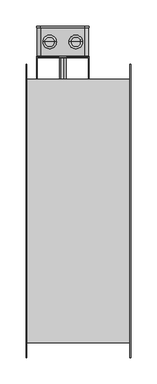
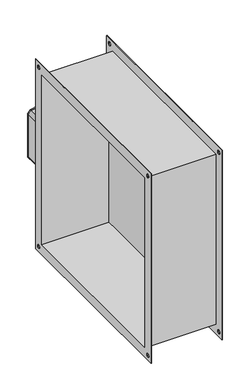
"""IFC4 building model written with IfcOpenShell, lengths in millimetres: damper geometry, СВ_КлапанПротивопожарный_КДМ-2М-3_НЗ_КанальныйПрямоугольный_СВОК : КДМ-2М_Привод FS."""

from ifc_helpers import new_model, si_unit, point, frame, frame_2d, origin, place, context, project, spatial, polyline, circle_curve, trimmed, segment, composite_curve, outline, extrude, source, transform, mapped, element, save
from ifc_brep_helpers import plane_surface, cylinder_surface, revolved_surface, advanced_brep


def damper_c32975f0(model_context):
    return source(origin(), model_context, "Body", "SolidModel", [
        extrude(outline(polyline([(88.8, -250.0), (88.8, 250.0), (90.0, 250.0), (90.0, -250.0), (88.8, -250.0)])), frame((0.0, 0.0, -250.0), z_axis=(0.0, 0.0, 1.0), x_axis=(1.0, 0.0, 0.0)), (0.0, 0.0, 1.0), 500.0),
        extrude(outline(polyline([(-78.8298911, 251.2), (-80.0298911, 251.2), (-80.0298911, 293.2), (20.0, 293.2), (20.0, 251.2), (18.8, 251.2), (18.8, 292.0), (-78.8298911, 292.0), (-78.8298911, 251.2)])), frame((0.0, 0.0, -80.0), z_axis=(0.0, 0.0, 1.0), x_axis=(1.0, 0.0, 0.0)), (0.0, 0.0, 1.0), 162.5),
        extrude(outline(composite_curve([segment(trimmed(circle_curve(frame_2d((-58.1260091, 9.0)), 11.0298911), [point((-68.5819866, 12.5115572))], [point((-58.1260091, 20.0298911))], False, "CARTESIAN"), True, "CONTINUOUS"), segment(polyline([(-58.1260091, 20.0298911), (66.1260091, 20.0298911)]), True, "CONTINUOUS"), segment(trimmed(circle_curve(frame_2d((66.1260091, 9.0)), 11.0298911), [point((66.1260091, 20.0298911))], [point((76.5819866, 12.5115572))], False, "CARTESIAN"), True, "CONTINUOUS"), segment(trimmed(circle_curve(frame_2d((-50.0, -30.0)), 133.5298911), [point((76.5819866, 12.5115572))], [point((76.5819866, -72.5115572))], False, "CARTESIAN"), True, "CONTINUOUS"), segment(trimmed(circle_curve(frame_2d((66.1260091, -69.0)), 11.0298911), [point((76.5819866, -72.5115572))], [point((66.1260091, -80.0298911))], False, "CARTESIAN"), True, "CONTINUOUS"), segment(polyline([(66.1260091, -80.0298911), (-58.1260091, -80.0298911)]), True, "CONTINUOUS"), segment(trimmed(circle_curve(frame_2d((-58.1260091, -69.0)), 11.0298911), [point((-58.1260091, -80.0298911))], [point((-68.5819866, -72.5115572))], False, "CARTESIAN"), True, "CONTINUOUS"), segment(trimmed(circle_curve(frame_2d((58.0, -30.0)), 133.5298911), [point((-68.5819866, -72.5115572))], [point((-68.5819866, 12.5115572))], False, "CARTESIAN"), True, "CONTINUOUS")], self_intersect=False), holes=[composite_curve([segment(trimmed(circle_curve(frame_2d((66.1260091, -69.0)), 10.0), [point((66.1260091, -79.0))], [point((75.6056834, -72.1836735))], True, "CARTESIAN"), True, "CONTINUOUS"), segment(trimmed(circle_curve(frame_2d((-50.0, -30.0)), 132.5), [point((75.6056834, -72.1836735))], [point((75.6056834, 12.1836735))], True, "CARTESIAN"), True, "CONTINUOUS"), segment(trimmed(circle_curve(frame_2d((66.1260091, 9.0)), 10.0), [point((75.6056834, 12.1836735))], [point((66.1260091, 19.0))], True, "CARTESIAN"), True, "CONTINUOUS"), segment(polyline([(66.1260091, 19.0), (-58.1260091, 19.0)]), True, "CONTINUOUS"), segment(trimmed(circle_curve(frame_2d((-58.1260091, 9.0)), 10.0), [point((-58.1260091, 19.0))], [point((-67.6056834, 12.1836735))], True, "CARTESIAN"), True, "CONTINUOUS"), segment(trimmed(circle_curve(frame_2d((58.0, -30.0)), 132.5), [point((-67.6056834, 12.1836735))], [point((-67.6056834, -72.1836735))], True, "CARTESIAN"), True, "CONTINUOUS"), segment(trimmed(circle_curve(frame_2d((-58.1260091, -69.0)), 10.0), [point((-67.6056834, -72.1836735))], [point((-58.1260091, -79.0))], True, "CARTESIAN"), True, "CONTINUOUS"), segment(polyline([(-58.1260091, -79.0), (66.1260091, -79.0)]), True, "CONTINUOUS")], self_intersect=False)]), frame((0.0, 293.2, 0.0), z_axis=(0.0, 1.0, 0.0), x_axis=(0.0, 0.0, 1.0)), (0.0, 0.0, 1.0), 2.0),
        advanced_brep(
        [(-72.1836735, 349.2, -67.6056834), (-72.1836735, 351.2, -67.6056834), (-79.0, 351.2, -58.1260091), (-79.0, 349.2, -58.1260091), (-72.5115572, 352.2, -68.5819866), (-72.5115572, 349.2, -68.5819866), (-80.0298911, 349.2, -58.1260091), (-80.0298911, 352.2, -58.1260091), (-71.5469388, 351.2, -65.7097485), (-71.5469388, 352.2, -65.7097485), (-77.0, 352.2, -58.1260091), (-77.0, 351.2, -58.1260091), (12.1836735, 349.2, -67.6056834), (12.1836735, 351.2, -67.6056834), (12.5115572, 352.2, -68.5819866), (12.5115572, 349.2, -68.5819866), (11.5469388, 351.2, -65.7097485), (11.5469388, 352.2, -65.7097485), (19.0, 349.2, -58.1260091), (19.0, 351.2, -58.1260091), (20.0298911, 352.2, -58.1260091), (20.0298911, 349.2, -58.1260091), (17.0, 351.2, -58.1260091), (17.0, 352.2, -58.1260091), (19.0, 349.2, 66.1260091), (19.0, 351.2, 66.1260091), (20.0298911, 352.2, 66.1260091), (20.0298911, 349.2, 66.1260091), (17.0, 351.2, 66.1260091), (17.0, 352.2, 66.1260091), (12.1836735, 349.2, 75.6056834), (12.1836735, 351.2, 75.6056834), (12.5115572, 352.2, 76.5819866), (12.5115572, 349.2, 76.5819866), (11.5469388, 351.2, 73.7097485), (11.5469388, 352.2, 73.7097485), (-72.1836735, 349.2, 75.6056834), (-72.1836735, 351.2, 75.6056834), (-72.5115572, 352.2, 76.5819866), (-72.5115572, 349.2, 76.5819866), (-71.5469388, 351.2, 73.7097485), (-71.5469388, 352.2, 73.7097485), (-79.0, 349.2, 66.1260091), (-79.0, 351.2, 66.1260091), (-80.0298911, 352.2, 66.1260091), (-80.0298911, 349.2, 66.1260091), (-77.0, 351.2, 66.1260091), (-77.0, 352.2, 66.1260091)],
        [
            (0, 1),
            (1, 2, circle_curve(frame((-69.0, 351.2, -58.1260091), z_axis=(0.0, 1.0, 0.0), x_axis=(-1.0, 0.0, 0.0)), 10.0)),
            (2, 3),
            (3, 0, circle_curve(frame((-69.0, 349.2, -58.1260091), z_axis=(0.0, -1.0, 0.0), x_axis=(-1.0, 0.0, 0.0)), 10.0)),
            (4, 5),
            (5, 6, circle_curve(frame((-69.0, 349.2, -58.1260091), z_axis=(0.0, 1.0, 0.0), x_axis=(-1.0, 0.0, 0.0)), 11.0298911)),
            (6, 7),
            (7, 4, circle_curve(frame((-69.0, 352.2, -58.1260091), z_axis=(0.0, -1.0, 0.0), x_axis=(-1.0, 0.0, 0.0)), 11.0298911)),
            (8, 9),
            (9, 10, circle_curve(frame((-69.0, 352.2, -58.1260091), z_axis=(0.0, 1.0, 0.0), x_axis=(-1.0, 0.0, 0.0)), 8.0)),
            (10, 11),
            (11, 8, circle_curve(frame((-69.0, 351.2, -58.1260091), z_axis=(0.0, -1.0, 0.0), x_axis=(-1.0, 0.0, 0.0)), 8.0)),
            (12, 13),
            (13, 1, circle_curve(frame((-30.0, 351.2, 58.0), z_axis=(0.0, 1.0, 0.0), x_axis=(-0.31836734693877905, 0.0, -0.947967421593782)), 132.5)),
            (0, 12, circle_curve(frame((-30.0, 349.2, 58.0), z_axis=(0.0, -1.0, 0.0), x_axis=(-0.31836734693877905, 0.0, -0.947967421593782)), 132.5)),
            (14, 15),
            (15, 5, circle_curve(frame((-30.0, 349.2, 58.0), z_axis=(0.0, 1.0, 0.0), x_axis=(-0.31836734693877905, 0.0, -0.947967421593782)), 133.5298911)),
            (4, 14, circle_curve(frame((-30.0, 352.2, 58.0), z_axis=(0.0, -1.0, 0.0), x_axis=(-0.31836734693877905, 0.0, -0.947967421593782)), 133.5298911)),
            (16, 17),
            (17, 9, circle_curve(frame((-30.0, 352.2, 58.0), z_axis=(0.0, 1.0, 0.0), x_axis=(-0.31836734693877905, 0.0, -0.947967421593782)), 130.5)),
            (8, 16, circle_curve(frame((-30.0, 351.2, 58.0), z_axis=(0.0, -1.0, 0.0), x_axis=(-0.31836734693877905, 0.0, -0.947967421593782)), 130.5)),
            (18, 19),
            (19, 13, circle_curve(frame((9.0, 351.2, -58.1260091), z_axis=(0.0, 1.0, 0.0), x_axis=(0.3183673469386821, 0.0, -0.9479674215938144)), 10.0)),
            (12, 18, circle_curve(frame((9.0, 349.2, -58.1260091), z_axis=(0.0, -1.0, 0.0), x_axis=(0.3183673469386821, 0.0, -0.9479674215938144)), 10.0)),
            (20, 21),
            (21, 15, circle_curve(frame((9.0, 349.2, -58.1260091), z_axis=(0.0, 1.0, 0.0), x_axis=(0.3183673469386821, 0.0, -0.9479674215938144)), 11.0298911)),
            (14, 20, circle_curve(frame((9.0, 352.2, -58.1260091), z_axis=(0.0, -1.0, 0.0), x_axis=(0.3183673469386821, 0.0, -0.9479674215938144)), 11.0298911)),
            (22, 23),
            (23, 17, circle_curve(frame((9.0, 352.2, -58.1260091), z_axis=(0.0, 1.0, 0.0), x_axis=(0.3183673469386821, 0.0, -0.9479674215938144)), 8.0)),
            (16, 22, circle_curve(frame((9.0, 351.2, -58.1260091), z_axis=(0.0, -1.0, 0.0), x_axis=(0.3183673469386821, 0.0, -0.9479674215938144)), 8.0)),
            (18, 24),
            (24, 25),
            (25, 19),
            (20, 26),
            (26, 27),
            (27, 21),
            (22, 28),
            (28, 29),
            (29, 23),
            (30, 31),
            (31, 25, circle_curve(frame((9.0, 351.2, 66.1260091), z_axis=(0.0, 1.0, 0.0), x_axis=(1.0, 0.0, 0.0)), 10.0)),
            (24, 30, circle_curve(frame((9.0, 349.2, 66.1260091), z_axis=(0.0, -1.0, 0.0), x_axis=(1.0, 0.0, 0.0)), 10.0)),
            (32, 33),
            (33, 27, circle_curve(frame((9.0, 349.2, 66.1260091), z_axis=(0.0, 1.0, 0.0), x_axis=(1.0, 0.0, 0.0)), 11.0298911)),
            (26, 32, circle_curve(frame((9.0, 352.2, 66.1260091), z_axis=(0.0, -1.0, 0.0), x_axis=(1.0, 0.0, 0.0)), 11.0298911)),
            (34, 35),
            (35, 29, circle_curve(frame((9.0, 352.2, 66.1260091), z_axis=(0.0, 1.0, 0.0), x_axis=(1.0, 0.0, 0.0)), 8.0)),
            (28, 34, circle_curve(frame((9.0, 351.2, 66.1260091), z_axis=(0.0, -1.0, 0.0), x_axis=(1.0, 0.0, 0.0)), 8.0)),
            (36, 37),
            (37, 31, circle_curve(frame((-30.0, 351.2, -50.0), z_axis=(0.0, 1.0, 0.0), x_axis=(0.3183673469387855, 0.0, 0.9479674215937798)), 132.5)),
            (30, 36, circle_curve(frame((-30.0, 349.2, -50.0), z_axis=(0.0, -1.0, 0.0), x_axis=(0.3183673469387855, 0.0, 0.9479674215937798)), 132.5)),
            (38, 39),
            (39, 33, circle_curve(frame((-30.0, 349.2, -50.0), z_axis=(0.0, 1.0, 0.0), x_axis=(0.3183673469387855, 0.0, 0.9479674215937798)), 133.5298911)),
            (32, 38, circle_curve(frame((-30.0, 352.2, -50.0), z_axis=(0.0, -1.0, 0.0), x_axis=(0.3183673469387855, 0.0, 0.9479674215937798)), 133.5298911)),
            (40, 41),
            (41, 35, circle_curve(frame((-30.0, 352.2, -50.0), z_axis=(0.0, 1.0, 0.0), x_axis=(0.3183673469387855, 0.0, 0.9479674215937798)), 130.5)),
            (34, 40, circle_curve(frame((-30.0, 351.2, -50.0), z_axis=(0.0, -1.0, 0.0), x_axis=(0.3183673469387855, 0.0, 0.9479674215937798)), 130.5)),
            (42, 43),
            (43, 37, circle_curve(frame((-69.0, 351.2, 66.1260091), z_axis=(0.0, 1.0, 0.0), x_axis=(-0.3183673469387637, 0.0, 0.947967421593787)), 10.0)),
            (36, 42, circle_curve(frame((-69.0, 349.2, 66.1260091), z_axis=(0.0, -1.0, 0.0), x_axis=(-0.3183673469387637, 0.0, 0.947967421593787)), 10.0)),
            (44, 45),
            (45, 39, circle_curve(frame((-69.0, 349.2, 66.1260091), z_axis=(0.0, 1.0, 0.0), x_axis=(-0.3183673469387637, 0.0, 0.947967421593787)), 11.0298911)),
            (38, 44, circle_curve(frame((-69.0, 352.2, 66.1260091), z_axis=(0.0, -1.0, 0.0), x_axis=(-0.3183673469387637, 0.0, 0.947967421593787)), 11.0298911)),
            (46, 47),
            (47, 41, circle_curve(frame((-69.0, 352.2, 66.1260091), z_axis=(0.0, 1.0, 0.0), x_axis=(-0.3183673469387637, 0.0, 0.947967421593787)), 8.0)),
            (40, 46, circle_curve(frame((-69.0, 351.2, 66.1260091), z_axis=(0.0, -1.0, 0.0), x_axis=(-0.3183673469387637, 0.0, 0.947967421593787)), 8.0)),
            (43, 2),
            (11, 46),
            (42, 3),
            (45, 6),
            (44, 7),
            (47, 10),
        ],
        [
            revolved_surface(polyline([(-79.0, 351.2, -58.1260091), (-79.0, 349.2, -58.1260091)]), (-69.0, 351.2, -58.1260091), (0.0, 1.0, 0.0)),
            cylinder_surface(frame((-69.0, 351.2, -58.1260091), z_axis=(0.0, 1.0, 0.0), x_axis=(-1.0, 0.0, 0.0)), 11.0298911),
            revolved_surface(polyline([(-77.0, 352.2, -58.1260091), (-77.0, 351.2, -58.1260091)]), (-69.0, 351.2, -58.1260091), (0.0, 1.0, 0.0)),
            revolved_surface(polyline([(-72.18367346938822, 351.2, -67.60568336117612), (-72.18367346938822, 349.2, -67.60568336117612)]), (-30.0, 351.2, 58.0), (0.0, 1.0, 0.0)),
            cylinder_surface(frame((-30.0, 351.2, 58.0), z_axis=(0.0, 1.0, 0.0), x_axis=(-0.31836734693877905, 0.0, -0.947967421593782)), 133.5298911),
            revolved_surface(polyline([(-71.54693877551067, 352.2, -65.70974851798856), (-71.54693877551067, 351.2, -65.70974851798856)]), (-30.0, 351.2, 58.0), (0.0, 1.0, 0.0)),
            revolved_surface(polyline([(12.183673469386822, 351.2, -67.60568331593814), (12.183673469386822, 349.2, -67.60568331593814)]), (9.0, 351.2, -58.1260091), (0.0, 1.0, 0.0)),
            cylinder_surface(frame((9.0, 351.2, -58.1260091), z_axis=(0.0, 1.0, 0.0), x_axis=(0.3183673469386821, 0.0, -0.9479674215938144)), 11.0298911),
            revolved_surface(polyline([(11.546938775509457, 352.2, -65.70974847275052), (11.546938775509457, 351.2, -65.70974847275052)]), (9.0, 351.2, -58.1260091), (0.0, 1.0, 0.0)),
            plane_surface(frame((19.0, 351.2, -58.1260091), z_axis=(-1.0, 0.0, 0.0), x_axis=(0.0, 0.0, 1.0))),
            plane_surface(frame((20.0298911, 349.2, -58.1260091), z_axis=(1.0, 0.0, 0.0), x_axis=(0.0, 0.0, 1.0))),
            plane_surface(frame((17.0, 352.2, -58.1260091), z_axis=(-1.0, 0.0, 0.0), x_axis=(0.0, 0.0, 1.0))),
            revolved_surface(polyline([(19.0, 351.2, 66.1260091), (19.0, 349.2, 66.1260091)]), (9.0, 351.2, 66.1260091), (0.0, 1.0, 0.0)),
            cylinder_surface(frame((9.0, 351.2, 66.1260091), z_axis=(0.0, 1.0, 0.0), x_axis=(1.0, 0.0, 0.0)), 11.0298911),
            revolved_surface(polyline([(17.0, 352.2, 66.1260091), (17.0, 351.2, 66.1260091)]), (9.0, 351.2, 66.1260091), (0.0, 1.0, 0.0)),
            revolved_surface(polyline([(12.183673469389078, 351.2, 75.60568336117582), (12.183673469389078, 349.2, 75.60568336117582)]), (-30.0, 351.2, -50.0), (0.0, 1.0, 0.0)),
            cylinder_surface(frame((-30.0, 351.2, -50.0), z_axis=(0.0, 1.0, 0.0), x_axis=(0.3183673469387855, 0.0, 0.9479674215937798)), 133.5298911),
            revolved_surface(polyline([(11.546938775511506, 352.2, 73.70974851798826), (11.546938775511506, 351.2, 73.70974851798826)]), (-30.0, 351.2, -50.0), (0.0, 1.0, 0.0)),
            revolved_surface(polyline([(-72.18367346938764, 351.2, 75.60568331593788), (-72.18367346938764, 349.2, 75.60568331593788)]), (-69.0, 351.2, 66.1260091), (0.0, 1.0, 0.0)),
            cylinder_surface(frame((-69.0, 351.2, 66.1260091), z_axis=(0.0, 1.0, 0.0), x_axis=(-0.3183673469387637, 0.0, 0.947967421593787)), 11.0298911),
            revolved_surface(polyline([(-71.54693877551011, 352.2, 73.7097484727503), (-71.54693877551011, 351.2, 73.7097484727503)]), (-69.0, 351.2, 66.1260091), (0.0, 1.0, 0.0)),
            plane_surface(frame((-77.0, 351.2, 66.1260091), z_axis=(0.0, -1.0, 0.0), x_axis=(0.0, 0.0, -1.0))),
            plane_surface(frame((-79.0, 351.2, 66.1260091), z_axis=(1.0, 0.0, 0.0), x_axis=(0.0, 0.0, -1.0))),
            plane_surface(frame((-79.0, 349.2, 66.1260091), z_axis=(0.0, -1.0, 0.0), x_axis=(0.0, 0.0, -1.0))),
            plane_surface(frame((-80.0298911, 349.2, 66.1260091), z_axis=(-1.0, 0.0, 0.0), x_axis=(0.0, 0.0, -1.0))),
            plane_surface(frame((-80.0298911, 352.2, 66.1260091), z_axis=(0.0, 1.0, 0.0), x_axis=(0.0, 0.0, -1.0))),
            plane_surface(frame((-77.0, 352.2, 66.1260091), z_axis=(1.0, 0.0, 0.0), x_axis=(0.0, 0.0, -1.0))),
        ],
        [
            (0, [[1, 2, 3, 4]]),
            (1, [[5, 6, 7, 8]]),
            (2, [[9, 10, 11, 12]]),
            (3, [[13, 14, -1, 15]]),
            (4, [[16, 17, -5, 18]]),
            (5, [[19, 20, -9, 21]]),
            (6, [[22, 23, -13, 24]]),
            (7, [[25, 26, -16, 27]]),
            (8, [[28, 29, -19, 30]]),
            (9, [[31, 32, 33, -22]]),
            (10, [[34, 35, 36, -25]]),
            (11, [[37, 38, 39, -28]]),
            (12, [[40, 41, -32, 42]]),
            (13, [[43, 44, -35, 45]]),
            (14, [[46, 47, -38, 48]]),
            (15, [[49, 50, -40, 51]]),
            (16, [[52, 53, -43, 54]]),
            (17, [[55, 56, -46, 57]]),
            (18, [[58, 59, -49, 60]]),
            (19, [[61, 62, -52, 63]]),
            (20, [[64, 65, -55, 66]]),
            (21, [[-2, -14, -23, -33, -41, -50, -59, 67], [-48, -37, -30, -21, -12, 68, -66, -57]]),
            (22, [[69, -3, -67, -58]]),
            (23, [[-6, -17, -26, -36, -44, -53, -62, 70], [-42, -31, -24, -15, -4, -69, -60, -51]]),
            (24, [[71, -7, -70, -61]]),
            (25, [[-45, -34, -27, -18, -8, -71, -63, -54], [-10, -20, -29, -39, -47, -56, -65, 72]]),
            (26, [[-68, -11, -72, -64]]),
        ],
    ),
        advanced_brep(
        [(-45.0, 322.2, 82.5), (-43.0228535, 322.2, 82.5), (-66.9771465, 322.2, 82.5), (-65.0, 322.2, 82.5), (-43.0228535, 322.2, 85.4915282), (-66.9771465, 322.2, 85.4915282), (-47.0228535, 322.2, 85.4915282), (-62.9771465, 322.2, 85.4915282), (-47.0228535, 322.2, 87.4754985), (-62.9771465, 322.2, 87.4754985), (-42.0228535, 322.2, 87.4754985), (-67.9771465, 322.2, 87.4754985), (-42.0228535, 322.2, 97.4754985), (-67.9771465, 322.2, 97.4754985), (-45.5583874, 322.2, 101.0110324), (-64.4416126, 322.2, 101.0110324), (-55.0, 322.2, 101.0110324), (-55.0, 322.2, 70.900028), (-45.0, 322.2, 70.900028), (-65.0, 322.2, 70.900028)],
        [
            (0, 1),
            (1, 2, circle_curve(frame((-55.0, 322.2, 82.5), z_axis=(0.0, 0.0, -1.0), x_axis=(-1.0, 0.0, 0.0)), 11.9771465)),
            (2, 3),
            (3, 0, circle_curve(frame((-55.0, 322.2, 82.5), z_axis=(0.0, 0.0, 1.0), x_axis=(-1.0, 0.0, 0.0)), 10.0)),
            (2, 1, circle_curve(frame((-55.0, 322.2, 82.5), z_axis=(0.0, 0.0, -1.0), x_axis=(-1.0, 0.0, 0.0)), 11.9771465)),
            (0, 3, circle_curve(frame((-55.0, 322.2, 82.5), z_axis=(0.0, 0.0, 1.0), x_axis=(-1.0, 0.0, 0.0)), 10.0)),
            (1, 4),
            (4, 5, circle_curve(frame((-55.0, 322.2, 85.4915282), z_axis=(0.0, 0.0, -1.0), x_axis=(-1.0, 0.0, 0.0)), 11.9771465)),
            (5, 2),
            (5, 4, circle_curve(frame((-55.0, 322.2, 85.4915282), z_axis=(0.0, 0.0, -1.0), x_axis=(-1.0, 0.0, 0.0)), 11.9771465)),
            (4, 6),
            (6, 7, circle_curve(frame((-55.0, 322.2, 85.4915282), z_axis=(0.0, 0.0, -1.0), x_axis=(-1.0, 0.0, 0.0)), 7.9771465)),
            (7, 5),
            (7, 6, circle_curve(frame((-55.0, 322.2, 85.4915282), z_axis=(0.0, 0.0, -1.0), x_axis=(-1.0, 0.0, 0.0)), 7.9771465)),
            (6, 8),
            (8, 9, circle_curve(frame((-55.0, 322.2, 87.4754985), z_axis=(0.0, 0.0, -1.0), x_axis=(-1.0, 0.0, 0.0)), 7.9771465)),
            (9, 7),
            (9, 8, circle_curve(frame((-55.0, 322.2, 87.4754985), z_axis=(0.0, 0.0, -1.0), x_axis=(-1.0, 0.0, 0.0)), 7.9771465)),
            (8, 10),
            (10, 11, circle_curve(frame((-55.0, 322.2, 87.4754985), z_axis=(0.0, 0.0, -1.0), x_axis=(-1.0, 0.0, 0.0)), 12.9771465)),
            (11, 9),
            (11, 10, circle_curve(frame((-55.0, 322.2, 87.4754985), z_axis=(0.0, 0.0, -1.0), x_axis=(-1.0, 0.0, 0.0)), 12.9771465)),
            (10, 12),
            (12, 13, circle_curve(frame((-55.0, 322.2, 97.4754985), z_axis=(0.0, 0.0, -1.0), x_axis=(-1.0, 0.0, 0.0)), 12.9771465)),
            (13, 11),
            (13, 12, circle_curve(frame((-55.0, 322.2, 97.4754985), z_axis=(0.0, 0.0, -1.0), x_axis=(-1.0, 0.0, 0.0)), 12.9771465)),
            (12, 14),
            (14, 15, circle_curve(frame((-55.0, 322.2, 101.0110324), z_axis=(0.0, 0.0, -1.0), x_axis=(-1.0, 0.0, 0.0)), 9.4416126)),
            (15, 13),
            (15, 14, circle_curve(frame((-55.0, 322.2, 101.0110324), z_axis=(0.0, 0.0, -1.0), x_axis=(-1.0, 0.0, 0.0)), 9.4416126)),
            (14, 16),
            (16, 15),
            (17, 18),
            (18, 19, circle_curve(frame((-55.0, 322.2, 70.900028), z_axis=(0.0, 0.0, -1.0), x_axis=(-1.0, 0.0, 0.0)), 10.0)),
            (19, 17),
            (19, 18, circle_curve(frame((-55.0, 322.2, 70.900028), z_axis=(0.0, 0.0, -1.0), x_axis=(-1.0, 0.0, 0.0)), 10.0)),
            (18, 0),
            (3, 19),
        ],
        [
            plane_surface(frame((-55.0, 322.2, 82.5), z_axis=(0.0, 0.0, -1.0), x_axis=(-1.0, 0.0, 0.0))),
            cylinder_surface(frame((-55.0, 322.2, 411.314844), z_axis=(0.0, 0.0, -1.0), x_axis=(-1.0, 0.0, 0.0)), 11.9771465),
            plane_surface(frame((-55.0, 322.2, 85.4915282), z_axis=(0.0, 0.0, 1.0), x_axis=(-1.0, 0.0, 0.0))),
            cylinder_surface(frame((-55.0, 322.2, 411.314844), z_axis=(0.0, 0.0, -1.0), x_axis=(-1.0, 0.0, 0.0)), 7.9771465),
            plane_surface(frame((-55.0, 322.2, 87.4754985), z_axis=(0.0, 0.0, -1.0), x_axis=(-1.0, 0.0, 0.0))),
            cylinder_surface(frame((-55.0, 322.2, 411.314844), z_axis=(0.0, 0.0, -1.0), x_axis=(-1.0, 0.0, 0.0)), 12.9771465),
            revolved_surface(polyline([(-64.4416126, 322.2, 101.0110324), (-67.9771465, 322.2, 97.4754985)]), (-55.0, 322.2, 411.314844), (0.0, 0.0, -1.0)),
            plane_surface(frame((-55.0, 322.2, 101.0110324), z_axis=(0.0, 0.0, 1.0), x_axis=(-1.0, 0.0, 0.0))),
            plane_surface(frame((-55.0, 322.2, 70.900028), z_axis=(0.0, 0.0, -1.0), x_axis=(-1.0, 0.0, 0.0))),
            cylinder_surface(frame((-55.0, 322.2, 411.314844), z_axis=(0.0, 0.0, -1.0), x_axis=(-1.0, 0.0, 0.0)), 10.0),
        ],
        [
            (0, [[1, 2, 3, 4]]),
            (0, [[-3, 5, -1, 6]]),
            (1, [[7, 8, 9, -2]]),
            (1, [[-9, 10, -7, -5]]),
            (2, [[11, 12, 13, -8]]),
            (2, [[-13, 14, -11, -10]]),
            (3, [[15, 16, 17, -12]]),
            (3, [[-17, 18, -15, -14]]),
            (4, [[19, 20, 21, -16]]),
            (4, [[-21, 22, -19, -18]]),
            (5, [[23, 24, 25, -20]]),
            (5, [[-25, 26, -23, -22]]),
            (6, [[27, 28, 29, -24]]),
            (6, [[-29, 30, -27, -26]]),
            (7, [[31, 32, -28]]),
            (7, [[-32, -31, -30]]),
            (8, [[33, 34, 35]]),
            (8, [[-35, 36, -33]]),
            (9, [[37, -4, 38, -34]]),
            (9, [[-38, -6, -37, -36]]),
        ],
    ),
        advanced_brep(
        [(-16.9771465, 322.2, 82.5), (-15.0, 322.2, 82.5), (5.0, 322.2, 82.5), (6.9771465, 322.2, 82.5), (-16.9771465, 322.2, 85.4915282), (6.9771465, 322.2, 85.4915282), (-12.9771465, 322.2, 85.4915282), (2.9771465, 322.2, 85.4915282), (-12.9771465, 322.2, 87.4754985), (2.9771465, 322.2, 87.4754985), (-17.9771465, 322.2, 87.4754985), (7.9771465, 322.2, 87.4754985), (-17.9771465, 322.2, 97.4754985), (7.9771465, 322.2, 97.4754985), (-14.4416126, 322.2, 101.0110324), (4.4416126, 322.2, 101.0110324), (-5.0, 322.2, 101.0110324), (-15.0, 322.2, 70.900028), (-5.0, 322.2, 70.900028), (5.0, 322.2, 70.900028)],
        [
            (0, 1),
            (1, 2, circle_curve(frame((-5.0, 322.2, 82.5), z_axis=(0.0, 0.0, 1.0), x_axis=(1.0, 0.0, 0.0)), 10.0)),
            (2, 3),
            (3, 0, circle_curve(frame((-5.0, 322.2, 82.5), z_axis=(0.0, 0.0, -1.0), x_axis=(1.0, 0.0, 0.0)), 11.9771465)),
            (2, 1, circle_curve(frame((-5.0, 322.2, 82.5), z_axis=(0.0, 0.0, 1.0), x_axis=(1.0, 0.0, 0.0)), 10.0)),
            (0, 3, circle_curve(frame((-5.0, 322.2, 82.5), z_axis=(0.0, 0.0, -1.0), x_axis=(1.0, 0.0, 0.0)), 11.9771465)),
            (4, 0),
            (3, 5),
            (5, 4, circle_curve(frame((-5.0, 322.2, 85.4915282), z_axis=(0.0, 0.0, -1.0), x_axis=(1.0, 0.0, 0.0)), 11.9771465)),
            (4, 5, circle_curve(frame((-5.0, 322.2, 85.4915282), z_axis=(0.0, 0.0, -1.0), x_axis=(1.0, 0.0, 0.0)), 11.9771465)),
            (6, 4),
            (5, 7),
            (7, 6, circle_curve(frame((-5.0, 322.2, 85.4915282), z_axis=(0.0, 0.0, -1.0), x_axis=(1.0, 0.0, 0.0)), 7.9771465)),
            (6, 7, circle_curve(frame((-5.0, 322.2, 85.4915282), z_axis=(0.0, 0.0, -1.0), x_axis=(1.0, 0.0, 0.0)), 7.9771465)),
            (8, 6),
            (7, 9),
            (9, 8, circle_curve(frame((-5.0, 322.2, 87.4754985), z_axis=(0.0, 0.0, -1.0), x_axis=(1.0, 0.0, 0.0)), 7.9771465)),
            (8, 9, circle_curve(frame((-5.0, 322.2, 87.4754985), z_axis=(0.0, 0.0, -1.0), x_axis=(1.0, 0.0, 0.0)), 7.9771465)),
            (10, 8),
            (9, 11),
            (11, 10, circle_curve(frame((-5.0, 322.2, 87.4754985), z_axis=(0.0, 0.0, -1.0), x_axis=(1.0, 0.0, 0.0)), 12.9771465)),
            (10, 11, circle_curve(frame((-5.0, 322.2, 87.4754985), z_axis=(0.0, 0.0, -1.0), x_axis=(1.0, 0.0, 0.0)), 12.9771465)),
            (12, 10),
            (11, 13),
            (13, 12, circle_curve(frame((-5.0, 322.2, 97.4754985), z_axis=(0.0, 0.0, -1.0), x_axis=(1.0, 0.0, 0.0)), 12.9771465)),
            (12, 13, circle_curve(frame((-5.0, 322.2, 97.4754985), z_axis=(0.0, 0.0, -1.0), x_axis=(1.0, 0.0, 0.0)), 12.9771465)),
            (14, 12),
            (13, 15),
            (15, 14, circle_curve(frame((-5.0, 322.2, 101.0110324), z_axis=(0.0, 0.0, -1.0), x_axis=(1.0, 0.0, 0.0)), 9.4416126)),
            (14, 15, circle_curve(frame((-5.0, 322.2, 101.0110324), z_axis=(0.0, 0.0, -1.0), x_axis=(1.0, 0.0, 0.0)), 9.4416126)),
            (16, 14),
            (15, 16),
            (17, 18),
            (18, 19),
            (19, 17, circle_curve(frame((-5.0, 322.2, 70.900028), z_axis=(0.0, 0.0, -1.0), x_axis=(1.0, 0.0, 0.0)), 10.0)),
            (17, 19, circle_curve(frame((-5.0, 322.2, 70.900028), z_axis=(0.0, 0.0, -1.0), x_axis=(1.0, 0.0, 0.0)), 10.0)),
            (1, 17),
            (19, 2),
        ],
        [
            plane_surface(frame((-5.0, 322.2, 82.5), z_axis=(0.0, 0.0, -1.0), x_axis=(1.0, 0.0, 0.0))),
            cylinder_surface(frame((-5.0, 322.2, 411.314844), z_axis=(0.0, 0.0, 1.0), x_axis=(1.0, 0.0, 0.0)), 11.9771465),
            plane_surface(frame((-5.0, 322.2, 85.4915282), z_axis=(0.0, 0.0, 1.0), x_axis=(1.0, 0.0, 0.0))),
            cylinder_surface(frame((-5.0, 322.2, 411.314844), z_axis=(0.0, 0.0, 1.0), x_axis=(1.0, 0.0, 0.0)), 7.9771465),
            plane_surface(frame((-5.0, 322.2, 87.4754985), z_axis=(0.0, 0.0, -1.0), x_axis=(1.0, 0.0, 0.0))),
            cylinder_surface(frame((-5.0, 322.2, 411.314844), z_axis=(0.0, 0.0, 1.0), x_axis=(1.0, 0.0, 0.0)), 12.9771465),
            revolved_surface(polyline([(7.9771465, 322.2, 97.4754985), (4.4416126, 322.2, 101.0110324)]), (-5.0, 322.2, 411.314844), (0.0, 0.0, 1.0)),
            plane_surface(frame((-5.0, 322.2, 101.0110324), z_axis=(0.0, 0.0, 1.0), x_axis=(1.0, 0.0, 0.0))),
            plane_surface(frame((-5.0, 322.2, 70.900028), z_axis=(0.0, 0.0, -1.0), x_axis=(1.0, 0.0, 0.0))),
            cylinder_surface(frame((-5.0, 322.2, 411.314844), z_axis=(0.0, 0.0, 1.0), x_axis=(1.0, 0.0, 0.0)), 10.0),
        ],
        [
            (0, [[1, 2, 3, 4]]),
            (0, [[-3, 5, -1, 6]]),
            (1, [[7, -4, 8, 9]]),
            (1, [[-8, -6, -7, 10]]),
            (2, [[11, -9, 12, 13]]),
            (2, [[-12, -10, -11, 14]]),
            (3, [[15, -13, 16, 17]]),
            (3, [[-16, -14, -15, 18]]),
            (4, [[19, -17, 20, 21]]),
            (4, [[-20, -18, -19, 22]]),
            (5, [[23, -21, 24, 25]]),
            (5, [[-24, -22, -23, 26]]),
            (6, [[27, -25, 28, 29]]),
            (6, [[-28, -26, -27, 30]]),
            (7, [[31, -29, 32]]),
            (7, [[-32, -30, -31]]),
            (8, [[33, 34, 35]]),
            (8, [[-34, -33, 36]]),
            (9, [[37, -35, 38, -2]]),
            (9, [[-38, -36, -37, -5]]),
        ],
    ),
        extrude(outline(polyline([(-44.8167305, -27.0074379), (-44.8167305, -32.9925621), (-50.0, -35.9851241), (-55.1832695, -32.9925621), (-55.1832695, -27.0074379), (-50.0, -24.0148759), (-44.8167305, -27.0074379)])), frame((0.0, 251.2, 0.0), z_axis=(0.0, 1.0, 0.0), x_axis=(0.0, 0.0, 1.0)), (0.0, 0.0, 1.0), 100.0),
        advanced_brep(
        [(-72.1836735, 351.2, 75.6056834), (12.1836735, 351.2, 75.6056834), (19.0, 351.2, 66.1260091), (19.0, 351.2, -58.1260091), (12.1836735, 351.2, -67.6056834), (-72.1836735, 351.2, -67.6056834), (-79.0, 351.2, -58.1260091), (-79.0, 351.2, 66.1260091), (-30.0, 351.2, -31.0), (-30.0, 351.2, -69.0), (-30.0, 351.2, -32.0), (-30.0, 351.2, -68.0), (-30.0, 351.2, -35.0), (-30.0, 351.2, -65.0), (-30.0, 351.2, -36.0), (-30.0, 351.2, -64.0), (-35.9954463, 351.2, -55.9954463), (-32.4898351, 351.2, -55.9954463), (-30.0, 351.2, -58.4852814), (-27.5101649, 351.2, -55.9954463), (-24.0045537, 351.2, -55.9954463), (-24.0045537, 351.2, -52.4898351), (-21.5147186, 351.2, -50.0), (-24.0045537, 351.2, -47.5101649), (-24.0045537, 351.2, -44.0045537), (-27.5101649, 351.2, -44.0045537), (-30.0, 351.2, -41.5147186), (-32.4898351, 351.2, -44.0045537), (-35.9954463, 351.2, -44.0045537), (-35.9954463, 351.2, -47.5101649), (-38.4852814, 351.2, -50.0), (-35.9954463, 351.2, -52.4898351), (-72.1836735, 293.2, 75.6056834), (-79.0, 293.2, 66.1260091), (-79.0, 293.2, -58.1260091), (-72.1836735, 293.2, -67.6056834), (12.1836735, 293.2, -67.6056834), (19.0, 293.2, -58.1260091), (19.0, 293.2, 66.1260091), (12.1836735, 293.2, 75.6056834), (-30.0, 346.2, -69.0), (-30.0, 346.2, -31.0), (-30.0, 346.2, -68.0), (-30.0, 346.2, -32.0), (-30.0, 346.2, -65.0), (-30.0, 346.2, -35.0), (-30.0, 346.2, -64.0), (-30.0, 346.2, -36.0), (-35.9954463, 346.2, -52.4898351), (-38.4852814, 346.2, -50.0), (-35.9954463, 346.2, -47.5101649), (-35.9954463, 346.2, -44.0045537), (-32.4898351, 346.2, -44.0045537), (-30.0, 346.2, -41.5147186), (-27.5101649, 346.2, -44.0045537), (-24.0045537, 346.2, -44.0045537), (-24.0045537, 346.2, -47.5101649), (-21.5147186, 346.2, -50.0), (-24.0045537, 346.2, -52.4898351), (-24.0045537, 346.2, -55.9954463), (-27.5101649, 346.2, -55.9954463), (-30.0, 346.2, -58.4852814), (-32.4898351, 346.2, -55.9954463), (-35.9954463, 346.2, -55.9954463)],
        [
            (0, 1, circle_curve(frame((-30.0, 351.2, -50.0), z_axis=(0.0, 1.0, 0.0), x_axis=(0.0, 0.0, 1.0)), 132.5)),
            (1, 2, circle_curve(frame((9.0, 351.2, 66.1260091), z_axis=(0.0, 1.0, 0.0), x_axis=(0.0, 0.0, 1.0)), 10.0)),
            (2, 3),
            (3, 4, circle_curve(frame((9.0, 351.2, -58.1260091), z_axis=(0.0, 1.0, 0.0), x_axis=(0.0, 0.0, 1.0)), 10.0)),
            (4, 5, circle_curve(frame((-30.0, 351.2, 58.0), z_axis=(0.0, 1.0, 0.0), x_axis=(0.0, 0.0, 1.0)), 132.5)),
            (5, 6, circle_curve(frame((-69.0, 351.2, -58.1260091), z_axis=(0.0, 1.0, 0.0), x_axis=(0.0, 0.0, 1.0)), 10.0)),
            (6, 7),
            (7, 0, circle_curve(frame((-69.0, 351.2, 66.1260091), z_axis=(0.0, 1.0, 0.0), x_axis=(0.0, 0.0, 1.0)), 10.0)),
            (8, 9, circle_curve(frame((-30.0, 351.2, -50.0), z_axis=(0.0, -1.0, 0.0), x_axis=(0.0, 0.0, 1.0)), 19.0)),
            (9, 8, circle_curve(frame((-30.0, 351.2, -50.0), z_axis=(0.0, -1.0, 0.0), x_axis=(0.0, 0.0, 1.0)), 19.0)),
            (10, 11, circle_curve(frame((-30.0, 351.2, -50.0), z_axis=(0.0, 1.0, 0.0), x_axis=(0.0, 0.0, 1.0)), 18.0)),
            (11, 10, circle_curve(frame((-30.0, 351.2, -50.0), z_axis=(0.0, 1.0, 0.0), x_axis=(0.0, 0.0, 1.0)), 18.0)),
            (12, 13, circle_curve(frame((-30.0, 351.2, -50.0), z_axis=(0.0, -1.0, 0.0), x_axis=(0.0, 0.0, 1.0)), 15.0)),
            (13, 12, circle_curve(frame((-30.0, 351.2, -50.0), z_axis=(0.0, -1.0, 0.0), x_axis=(0.0, 0.0, 1.0)), 15.0)),
            (14, 15, circle_curve(frame((-30.0, 351.2, -50.0), z_axis=(0.0, 1.0, 0.0), x_axis=(0.0, 0.0, 1.0)), 14.0)),
            (15, 14, circle_curve(frame((-30.0, 351.2, -50.0), z_axis=(0.0, 1.0, 0.0), x_axis=(0.0, 0.0, 1.0)), 14.0)),
            (16, 17),
            (17, 18),
            (18, 19),
            (19, 20),
            (20, 21),
            (21, 22),
            (22, 23),
            (23, 24),
            (24, 25),
            (25, 26),
            (26, 27),
            (27, 28),
            (28, 29),
            (29, 30),
            (30, 31),
            (31, 16),
            (32, 33, circle_curve(frame((-69.0, 293.2, 66.1260091), z_axis=(0.0, -1.0, 0.0), x_axis=(0.0, 0.0, 1.0)), 10.0)),
            (33, 34),
            (34, 35, circle_curve(frame((-69.0, 293.2, -58.1260091), z_axis=(0.0, -1.0, 0.0), x_axis=(0.0, 0.0, 1.0)), 10.0)),
            (35, 36, circle_curve(frame((-30.0, 293.2, 58.0), z_axis=(0.0, -1.0, 0.0), x_axis=(0.0, 0.0, 1.0)), 132.5)),
            (36, 37, circle_curve(frame((9.0, 293.2, -58.1260091), z_axis=(0.0, -1.0, 0.0), x_axis=(0.0, 0.0, 1.0)), 10.0)),
            (37, 38),
            (38, 39, circle_curve(frame((9.0, 293.2, 66.1260091), z_axis=(0.0, -1.0, 0.0), x_axis=(0.0, 0.0, 1.0)), 10.0)),
            (39, 32, circle_curve(frame((-30.0, 293.2, -50.0), z_axis=(0.0, -1.0, 0.0), x_axis=(0.0, 0.0, 1.0)), 132.5)),
            (7, 33),
            (32, 0),
            (6, 34),
            (5, 35),
            (4, 36),
            (3, 37),
            (2, 38),
            (1, 39),
            (40, 41, circle_curve(frame((-30.0, 346.2, -50.0), z_axis=(0.0, 1.0, 0.0), x_axis=(0.0, 0.0, 1.0)), 19.0)),
            (41, 40, circle_curve(frame((-30.0, 346.2, -50.0), z_axis=(0.0, 1.0, 0.0), x_axis=(0.0, 0.0, 1.0)), 19.0)),
            (42, 43, circle_curve(frame((-30.0, 346.2, -50.0), z_axis=(0.0, -1.0, 0.0), x_axis=(0.0, 0.0, 1.0)), 18.0)),
            (43, 42, circle_curve(frame((-30.0, 346.2, -50.0), z_axis=(0.0, -1.0, 0.0), x_axis=(0.0, 0.0, 1.0)), 18.0)),
            (44, 45, circle_curve(frame((-30.0, 346.2, -50.0), z_axis=(0.0, 1.0, 0.0), x_axis=(0.0, 0.0, 1.0)), 15.0)),
            (45, 44, circle_curve(frame((-30.0, 346.2, -50.0), z_axis=(0.0, 1.0, 0.0), x_axis=(0.0, 0.0, 1.0)), 15.0)),
            (46, 47, circle_curve(frame((-30.0, 346.2, -50.0), z_axis=(0.0, -1.0, 0.0), x_axis=(0.0, 0.0, 1.0)), 14.0)),
            (47, 46, circle_curve(frame((-30.0, 346.2, -50.0), z_axis=(0.0, -1.0, 0.0), x_axis=(0.0, 0.0, 1.0)), 14.0)),
            (48, 49),
            (49, 50),
            (50, 51),
            (51, 52),
            (52, 53),
            (53, 54),
            (54, 55),
            (55, 56),
            (56, 57),
            (57, 58),
            (58, 59),
            (59, 60),
            (60, 61),
            (61, 62),
            (62, 63),
            (63, 48),
            (41, 8),
            (9, 40),
            (43, 10),
            (11, 42),
            (45, 12),
            (13, 44),
            (47, 14),
            (15, 46),
            (63, 16),
            (31, 48),
            (62, 17),
            (61, 18),
            (60, 19),
            (59, 20),
            (58, 21),
            (57, 22),
            (56, 23),
            (55, 24),
            (54, 25),
            (53, 26),
            (52, 27),
            (51, 28),
            (50, 29),
            (49, 30),
        ],
        [
            plane_surface(frame((-69.0, 351.2, 76.1260091), z_axis=(0.0, 1.0, 0.0), x_axis=(-1.0, 0.0, 0.0))),
            plane_surface(frame((-69.0, 293.2, 76.1260091), z_axis=(0.0, -1.0, 0.0), x_axis=(1.0, 0.0, 0.0))),
            cylinder_surface(frame((-69.0, 293.2, 66.1260091), z_axis=(0.0, 1.0, 0.0), x_axis=(0.0, 0.0, 1.0)), 10.0),
            plane_surface(frame((-79.0, 351.2, 66.1260091), z_axis=(-1.0, 0.0, 0.0), x_axis=(0.0, -1.0, 0.0))),
            cylinder_surface(frame((-69.0, 293.2, -58.1260091), z_axis=(0.0, 1.0, 0.0), x_axis=(0.0, 0.0, 1.0)), 10.0),
            cylinder_surface(frame((-30.0, 293.2, 58.0), z_axis=(0.0, 1.0, 0.0), x_axis=(0.0, 0.0, 1.0)), 132.5),
            cylinder_surface(frame((9.0, 293.2, -58.1260091), z_axis=(0.0, 1.0, 0.0), x_axis=(0.0, 0.0, 1.0)), 10.0),
            plane_surface(frame((19.0, 351.2, -58.1260091), z_axis=(1.0, 0.0, 0.0), x_axis=(0.0, -1.0, 0.0))),
            cylinder_surface(frame((9.0, 293.2, 66.1260091), z_axis=(0.0, 1.0, 0.0), x_axis=(0.0, 0.0, 1.0)), 10.0),
            cylinder_surface(frame((-30.0, 293.2, -50.0), z_axis=(0.0, 1.0, 0.0), x_axis=(0.0, 0.0, 1.0)), 132.5),
            plane_surface(frame((-30.0, 346.2, -31.0), z_axis=(0.0, 1.0, 0.0), x_axis=(1.0, 0.0, 0.0))),
            revolved_surface(polyline([(-30.0, 351.2, -31.0), (-30.0, 346.2, -31.0)]), (-30.0, 346.2, -50.0), (0.0, 1.0, 0.0)),
            cylinder_surface(frame((-30.0, 251.2, -50.0), z_axis=(0.0, -1.0, 0.0), x_axis=(0.0, 0.0, 1.0)), 18.0),
            revolved_surface(polyline([(-30.0, 351.2, -35.0), (-30.0, 346.2, -35.0)]), (-30.0, 251.2, -50.0), (0.0, 1.0, 0.0)),
            cylinder_surface(frame((-30.0, 251.2, -50.0), z_axis=(0.0, -1.0, 0.0), x_axis=(0.0, 0.0, 1.0)), 14.0),
            plane_surface(frame((-35.9954463, 351.2, -52.4898351), z_axis=(1.0, 0.0, 0.0), x_axis=(0.0, -1.0, 0.0))),
            plane_surface(frame((-35.9954463, 351.2, -55.9954463), z_axis=(0.0, 0.0, 1.0), x_axis=(0.0, -1.0, 0.0))),
            plane_surface(frame((-32.4898351, 351.2, -55.9954463), z_axis=(0.7071067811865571, 0.0, 0.707106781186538), x_axis=(0.0, -1.0, 0.0))),
            plane_surface(frame((-30.0, 351.2, -58.4852814), z_axis=(-0.7071067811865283, 0.0, 0.7071067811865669), x_axis=(0.0, -1.0, 0.0))),
            plane_surface(frame((-27.5101649, 351.2, -55.9954463), z_axis=(0.0, 0.0, 1.0), x_axis=(0.0, -1.0, 0.0))),
            plane_surface(frame((-24.0045537, 351.2, -55.9954463), z_axis=(-1.0, 0.0, 0.0), x_axis=(0.0, -1.0, 0.0))),
            plane_surface(frame((-24.0045537, 351.2, -52.4898351), z_axis=(-0.7071067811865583, 0.0, 0.7071067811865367), x_axis=(0.0, -1.0, 0.0))),
            plane_surface(frame((-21.5147186, 351.2, -50.0), z_axis=(-0.7071067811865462, 0.0, -0.7071067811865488), x_axis=(0.0, -1.0, 0.0))),
            plane_surface(frame((-24.0045537, 351.2, -47.5101649), z_axis=(-1.0, 0.0, 0.0), x_axis=(0.0, -1.0, 0.0))),
            plane_surface(frame((-24.0045537, 351.2, -44.0045537), z_axis=(0.0, 0.0, -1.0), x_axis=(0.0, -1.0, 0.0))),
            plane_surface(frame((-27.5101649, 351.2, -44.0045537), z_axis=(-0.7071067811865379, 0.0, -0.7071067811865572), x_axis=(0.0, -1.0, 0.0))),
            plane_surface(frame((-30.0, 351.2, -41.5147186), z_axis=(0.7071067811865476, 0.0, -0.7071067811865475), x_axis=(0.0, -1.0, 0.0))),
            plane_surface(frame((-32.4898351, 351.2, -44.0045537), z_axis=(0.0, 0.0, -1.0), x_axis=(0.0, -1.0, 0.0))),
            plane_surface(frame((-35.9954463, 351.2, -44.0045537), z_axis=(1.0, 0.0, 0.0), x_axis=(0.0, -1.0, 0.0))),
            plane_surface(frame((-35.9954463, 351.2, -47.5101649), z_axis=(0.7071067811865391, 0.0, -0.7071067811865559), x_axis=(0.0, -1.0, 0.0))),
            plane_surface(frame((-38.4852814, 351.2, -50.0), z_axis=(0.7071067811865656, 0.0, 0.7071067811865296), x_axis=(0.0, -1.0, 0.0))),
        ],
        [
            (0, [[1, 2, 3, 4, 5, 6, 7, 8], [9, 10]]),
            (0, [[11, 12], [13, 14]]),
            (0, [[15, 16], [17, 18, 19, 20, 21, 22, 23, 24, 25, 26, 27, 28, 29, 30, 31, 32]]),
            (1, [[33, 34, 35, 36, 37, 38, 39, 40]]),
            (2, [[41, -33, 42, -8]]),
            (3, [[43, -34, -41, -7]]),
            (4, [[44, -35, -43, -6]]),
            (5, [[45, -36, -44, -5]]),
            (6, [[46, -37, -45, -4]]),
            (7, [[47, -38, -46, -3]]),
            (8, [[48, -39, -47, -2]]),
            (9, [[-42, -40, -48, -1]]),
            (10, [[49, 50], [51, 52]]),
            (10, [[53, 54], [55, 56]]),
            (10, [[57, 58, 59, 60, 61, 62, 63, 64, 65, 66, 67, 68, 69, 70, 71, 72]]),
            (11, [[73, -10, 74, -50]]),
            (11, [[-74, -9, -73, -49]]),
            (12, [[75, -12, 76, -52]]),
            (12, [[-76, -11, -75, -51]]),
            (13, [[77, -14, 78, -54]]),
            (13, [[-78, -13, -77, -53]]),
            (14, [[79, -16, 80, -56]]),
            (14, [[-80, -15, -79, -55]]),
            (15, [[81, -32, 82, -72]]),
            (16, [[83, -17, -81, -71]]),
            (17, [[84, -18, -83, -70]]),
            (18, [[85, -19, -84, -69]]),
            (19, [[86, -20, -85, -68]]),
            (20, [[87, -21, -86, -67]]),
            (21, [[88, -22, -87, -66]]),
            (22, [[89, -23, -88, -65]]),
            (23, [[90, -24, -89, -64]]),
            (24, [[91, -25, -90, -63]]),
            (25, [[92, -26, -91, -62]]),
            (26, [[93, -27, -92, -61]]),
            (27, [[94, -28, -93, -60]]),
            (28, [[95, -29, -94, -59]]),
            (29, [[96, -30, -95, -58]]),
            (30, [[-82, -31, -96, -57]]),
        ],
    ),
        advanced_brep(
        [(98.8, -280.0, 280.0), (98.8, 280.0, 280.0), (98.8, 280.0, -280.0), (98.8, -280.0, -280.0), (98.8, 251.2, 251.2), (98.8, -251.2, 251.2), (98.8, -251.2, -251.2), (98.8, 251.2, -251.2), (98.8, 260.0, 265.0), (98.8, 270.0, 265.0), (98.8, -270.0, 265.0), (98.8, -260.0, 265.0), (98.8, -270.0, -265.0), (98.8, -260.0, -265.0), (98.8, 260.0, -265.0), (98.8, 270.0, -265.0), (100.0, -280.0, 280.0), (100.0, -280.0, -280.0), (100.0, 280.0, -280.0), (100.0, 280.0, 280.0), (100.0, -250.0, 250.0), (100.0, 250.0, 250.0), (100.0, 250.0, -250.0), (100.0, -250.0, -250.0), (100.0, 270.0, 265.0), (100.0, 260.0, 265.0), (100.0, -260.0, 265.0), (100.0, -270.0, 265.0), (100.0, -260.0, -265.0), (100.0, -270.0, -265.0), (100.0, 270.0, -265.0), (100.0, 260.0, -265.0), (-100.0, -280.0, 280.0), (-100.0, 280.0, 280.0), (-100.0, 280.0, -280.0), (-100.0, -280.0, -280.0), (-100.0, -250.0, 250.0), (-100.0, -250.0, -250.0), (-100.0, 250.0, -250.0), (-100.0, 250.0, 250.0), (-100.0, 260.0, 265.0), (-100.0, 270.0, 265.0), (-100.0, -270.0, 265.0), (-100.0, -260.0, 265.0), (-100.0, -270.0, -265.0), (-100.0, -260.0, -265.0), (-100.0, 260.0, -265.0), (-100.0, 270.0, -265.0), (-98.8, -280.0, 280.0), (-98.8, -280.0, -280.0), (-98.8, 280.0, -280.0), (-98.8, 280.0, 280.0), (-98.8, -251.2, 251.2), (-98.8, 251.2, 251.2), (-98.8, 251.2, -251.2), (-98.8, -251.2, -251.2), (-98.8, 270.0, 265.0), (-98.8, 260.0, 265.0), (-98.8, -260.0, 265.0), (-98.8, -270.0, 265.0), (-98.8, -260.0, -265.0), (-98.8, -270.0, -265.0), (-98.8, 270.0, -265.0), (-98.8, 260.0, -265.0)],
        [
            (0, 1),
            (1, 2),
            (2, 3),
            (3, 0),
            (4, 5),
            (5, 6),
            (6, 7),
            (7, 4),
            (8, 9, circle_curve(frame((98.8, 265.0, 265.0), z_axis=(1.0, 0.0, 0.0), x_axis=(0.0, 1.0, 0.0)), 5.0)),
            (9, 8, circle_curve(frame((98.8, 265.0, 265.0), z_axis=(1.0, 0.0, 0.0), x_axis=(0.0, 1.0, 0.0)), 5.0)),
            (10, 11, circle_curve(frame((98.8, -265.0, 265.0), z_axis=(1.0, 0.0, 0.0), x_axis=(0.0, 1.0, 0.0)), 5.0)),
            (11, 10, circle_curve(frame((98.8, -265.0, 265.0), z_axis=(1.0, 0.0, 0.0), x_axis=(0.0, 1.0, 0.0)), 5.0)),
            (12, 13, circle_curve(frame((98.8, -265.0, -265.0), z_axis=(1.0, 0.0, 0.0), x_axis=(0.0, 1.0, 0.0)), 5.0)),
            (13, 12, circle_curve(frame((98.8, -265.0, -265.0), z_axis=(1.0, 0.0, 0.0), x_axis=(0.0, 1.0, 0.0)), 5.0)),
            (14, 15, circle_curve(frame((98.8, 265.0, -265.0), z_axis=(1.0, 0.0, 0.0), x_axis=(0.0, 1.0, 0.0)), 5.0)),
            (15, 14, circle_curve(frame((98.8, 265.0, -265.0), z_axis=(1.0, 0.0, 0.0), x_axis=(0.0, 1.0, 0.0)), 5.0)),
            (16, 17),
            (17, 18),
            (18, 19),
            (19, 16),
            (20, 21),
            (21, 22),
            (22, 23),
            (23, 20),
            (24, 25, circle_curve(frame((100.0, 265.0, 265.0), z_axis=(-1.0, 0.0, 0.0), x_axis=(0.0, 1.0, 0.0)), 5.0)),
            (25, 24, circle_curve(frame((100.0, 265.0, 265.0), z_axis=(-1.0, 0.0, 0.0), x_axis=(0.0, 1.0, 0.0)), 5.0)),
            (26, 27, circle_curve(frame((100.0, -265.0, 265.0), z_axis=(-1.0, 0.0, 0.0), x_axis=(0.0, 1.0, 0.0)), 5.0)),
            (27, 26, circle_curve(frame((100.0, -265.0, 265.0), z_axis=(-1.0, 0.0, 0.0), x_axis=(0.0, 1.0, 0.0)), 5.0)),
            (28, 29, circle_curve(frame((100.0, -265.0, -265.0), z_axis=(-1.0, 0.0, 0.0), x_axis=(0.0, 1.0, 0.0)), 5.0)),
            (29, 28, circle_curve(frame((100.0, -265.0, -265.0), z_axis=(-1.0, 0.0, 0.0), x_axis=(0.0, 1.0, 0.0)), 5.0)),
            (30, 31, circle_curve(frame((100.0, 265.0, -265.0), z_axis=(-1.0, 0.0, 0.0), x_axis=(0.0, 1.0, 0.0)), 5.0)),
            (31, 30, circle_curve(frame((100.0, 265.0, -265.0), z_axis=(-1.0, 0.0, 0.0), x_axis=(0.0, 1.0, 0.0)), 5.0)),
            (32, 33),
            (33, 34),
            (34, 35),
            (35, 32),
            (36, 37),
            (37, 38),
            (38, 39),
            (39, 36),
            (40, 41, circle_curve(frame((-100.0, 265.0, 265.0), z_axis=(1.0, 0.0, 0.0), x_axis=(0.0, 1.0, 0.0)), 5.0)),
            (41, 40, circle_curve(frame((-100.0, 265.0, 265.0), z_axis=(1.0, 0.0, 0.0), x_axis=(0.0, 1.0, 0.0)), 5.0)),
            (42, 43, circle_curve(frame((-100.0, -265.0, 265.0), z_axis=(1.0, 0.0, 0.0), x_axis=(0.0, 1.0, 0.0)), 5.0)),
            (43, 42, circle_curve(frame((-100.0, -265.0, 265.0), z_axis=(1.0, 0.0, 0.0), x_axis=(0.0, 1.0, 0.0)), 5.0)),
            (44, 45, circle_curve(frame((-100.0, -265.0, -265.0), z_axis=(1.0, 0.0, 0.0), x_axis=(0.0, 1.0, 0.0)), 5.0)),
            (45, 44, circle_curve(frame((-100.0, -265.0, -265.0), z_axis=(1.0, 0.0, 0.0), x_axis=(0.0, 1.0, 0.0)), 5.0)),
            (46, 47, circle_curve(frame((-100.0, 265.0, -265.0), z_axis=(1.0, 0.0, 0.0), x_axis=(0.0, 1.0, 0.0)), 5.0)),
            (47, 46, circle_curve(frame((-100.0, 265.0, -265.0), z_axis=(1.0, 0.0, 0.0), x_axis=(0.0, 1.0, 0.0)), 5.0)),
            (48, 49),
            (49, 50),
            (50, 51),
            (51, 48),
            (52, 53),
            (53, 54),
            (54, 55),
            (55, 52),
            (56, 57, circle_curve(frame((-98.8, 265.0, 265.0), z_axis=(-1.0, 0.0, 0.0), x_axis=(0.0, 1.0, 0.0)), 5.0)),
            (57, 56, circle_curve(frame((-98.8, 265.0, 265.0), z_axis=(-1.0, 0.0, 0.0), x_axis=(0.0, 1.0, 0.0)), 5.0)),
            (58, 59, circle_curve(frame((-98.8, -265.0, 265.0), z_axis=(-1.0, 0.0, 0.0), x_axis=(0.0, 1.0, 0.0)), 5.0)),
            (59, 58, circle_curve(frame((-98.8, -265.0, 265.0), z_axis=(-1.0, 0.0, 0.0), x_axis=(0.0, 1.0, 0.0)), 5.0)),
            (60, 61, circle_curve(frame((-98.8, -265.0, -265.0), z_axis=(-1.0, 0.0, 0.0), x_axis=(0.0, 1.0, 0.0)), 5.0)),
            (61, 60, circle_curve(frame((-98.8, -265.0, -265.0), z_axis=(-1.0, 0.0, 0.0), x_axis=(0.0, 1.0, 0.0)), 5.0)),
            (62, 63, circle_curve(frame((-98.8, 265.0, -265.0), z_axis=(-1.0, 0.0, 0.0), x_axis=(0.0, 1.0, 0.0)), 5.0)),
            (63, 62, circle_curve(frame((-98.8, 265.0, -265.0), z_axis=(-1.0, 0.0, 0.0), x_axis=(0.0, 1.0, 0.0)), 5.0)),
            (4, 53),
            (52, 5),
            (55, 6),
            (54, 7),
            (35, 49),
            (48, 32),
            (34, 50),
            (33, 51),
            (20, 36),
            (39, 21),
            (38, 22),
            (37, 23),
            (3, 17),
            (16, 0),
            (2, 18),
            (1, 19),
            (8, 25),
            (24, 9),
            (40, 57),
            (56, 41),
            (10, 27),
            (26, 11),
            (42, 59),
            (58, 43),
            (12, 29),
            (28, 13),
            (44, 61),
            (60, 45),
            (14, 31),
            (30, 15),
            (46, 63),
            (62, 47),
        ],
        [
            plane_surface(frame((98.8, 250.0, 250.0), z_axis=(-1.0, 0.0, 0.0), x_axis=(0.0, -1.0, 0.0))),
            plane_surface(frame((100.0, 250.0, 250.0), z_axis=(1.0, 0.0, 0.0), x_axis=(0.0, 1.0, 0.0))),
            plane_surface(frame((-100.0, 250.0, 250.0), z_axis=(-1.0, 0.0, 0.0), x_axis=(0.0, -1.0, 0.0))),
            plane_surface(frame((-98.8, 250.0, 250.0), z_axis=(1.0, 0.0, 0.0), x_axis=(0.0, 1.0, 0.0))),
            plane_surface(frame((100.0, 251.2, 251.2), z_axis=(0.0, 0.0, 1.0), x_axis=(-1.0, 0.0, 0.0))),
            plane_surface(frame((100.0, -251.2, 251.2), z_axis=(0.0, -1.0, 0.0), x_axis=(-1.0, 0.0, 0.0))),
            plane_surface(frame((100.0, -251.2, -251.2), z_axis=(0.0, 0.0, -1.0), x_axis=(-1.0, 0.0, 0.0))),
            plane_surface(frame((100.0, 251.2, -251.2), z_axis=(0.0, 1.0, 0.0), x_axis=(-1.0, 0.0, 0.0))),
            plane_surface(frame((-98.8, -280.0, 280.0), z_axis=(0.0, -1.0, 0.0), x_axis=(-1.0, 0.0, 0.0))),
            plane_surface(frame((-98.8, -280.0, -280.0), z_axis=(0.0, 0.0, -1.0), x_axis=(-1.0, 0.0, 0.0))),
            plane_surface(frame((-98.8, 280.0, -280.0), z_axis=(0.0, 1.0, 0.0), x_axis=(-1.0, 0.0, 0.0))),
            plane_surface(frame((-98.8, 280.0, 280.0), z_axis=(0.0, 0.0, 1.0), x_axis=(-1.0, 0.0, 0.0))),
            plane_surface(frame((100.0, -250.0, 250.0), z_axis=(0.0, 0.0, -1.0), x_axis=(-1.0, 0.0, 0.0))),
            plane_surface(frame((100.0, 250.0, 250.0), z_axis=(0.0, -1.0, 0.0), x_axis=(-1.0, 0.0, 0.0))),
            plane_surface(frame((100.0, 250.0, -250.0), z_axis=(0.0, 0.0, 1.0), x_axis=(-1.0, 0.0, 0.0))),
            plane_surface(frame((100.0, -250.0, -250.0), z_axis=(0.0, 1.0, 0.0), x_axis=(-1.0, 0.0, 0.0))),
            plane_surface(frame((100.0, -280.0, 280.0), z_axis=(0.0, -1.0, 0.0), x_axis=(-1.0, 0.0, 0.0))),
            plane_surface(frame((100.0, -280.0, -280.0), z_axis=(0.0, 0.0, -1.0), x_axis=(-1.0, 0.0, 0.0))),
            plane_surface(frame((100.0, 280.0, -280.0), z_axis=(0.0, 1.0, 0.0), x_axis=(-1.0, 0.0, 0.0))),
            plane_surface(frame((100.0, 280.0, 280.0), z_axis=(0.0, 0.0, 1.0), x_axis=(-1.0, 0.0, 0.0))),
            revolved_surface(polyline([(100.0, 270.0, 265.0), (98.80000000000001, 270.0, 265.0)]), (-100.0, 265.0, 265.0), (1.0, 0.0, 0.0)),
            revolved_surface(polyline([(-98.8, 270.0, 265.0), (-100.0, 270.0, 265.0)]), (-100.0, 265.0, 265.0), (1.0, 0.0, 0.0)),
            revolved_surface(polyline([(100.0, -260.0, 265.0), (98.8, -260.0, 265.0)]), (-10.0, -265.0, 265.0), (1.0, 0.0, 0.0)),
            revolved_surface(polyline([(-98.8, -260.0, 265.0), (-100.0, -260.0, 265.0)]), (-10.0, -265.0, 265.0), (1.0, 0.0, 0.0)),
            revolved_surface(polyline([(100.0, -260.0, -265.0), (98.8, -260.0, -265.0)]), (-10.0, -265.0, -265.0), (1.0, 0.0, 0.0)),
            revolved_surface(polyline([(-98.8, -260.0, -265.0), (-100.0, -260.0, -265.0)]), (-10.0, -265.0, -265.0), (1.0, 0.0, 0.0)),
            revolved_surface(polyline([(100.0, 270.0, -265.0), (98.8, 270.0, -265.0)]), (-10.0, 265.0, -265.0), (1.0, 0.0, 0.0)),
            revolved_surface(polyline([(-98.8, 270.0, -265.0), (-100.0, 270.0, -265.0)]), (-10.0, 265.0, -265.0), (1.0, 0.0, 0.0)),
        ],
        [
            (0, [[1, 2, 3, 4], [5, 6, 7, 8], [9, 10], [11, 12], [13, 14], [15, 16]]),
            (1, [[17, 18, 19, 20], [21, 22, 23, 24], [25, 26], [27, 28], [29, 30], [31, 32]]),
            (2, [[33, 34, 35, 36], [37, 38, 39, 40], [41, 42], [43, 44], [45, 46], [47, 48]]),
            (3, [[49, 50, 51, 52], [53, 54, 55, 56], [57, 58], [59, 60], [61, 62], [63, 64]]),
            (4, [[65, -53, 66, -5]]),
            (5, [[-66, -56, 67, -6]]),
            (6, [[-67, -55, 68, -7]]),
            (7, [[-65, -8, -68, -54]]),
            (8, [[-36, 69, -49, 70]]),
            (9, [[-35, 71, -50, -69]]),
            (10, [[-34, 72, -51, -71]]),
            (11, [[-33, -70, -52, -72]]),
            (12, [[-21, 73, -40, 74]]),
            (13, [[-22, -74, -39, 75]]),
            (14, [[-23, -75, -38, 76]]),
            (15, [[-73, -24, -76, -37]]),
            (16, [[-4, 77, -17, 78]]),
            (17, [[-3, 79, -18, -77]]),
            (18, [[-2, 80, -19, -79]]),
            (19, [[-1, -78, -20, -80]]),
            (20, [[81, -25, 82, -9]]),
            (21, [[83, -57, 84, -41]]),
            (20, [[-81, -10, -82, -26]]),
            (21, [[-83, -42, -84, -58]]),
            (22, [[85, -27, 86, -11]]),
            (23, [[87, -59, 88, -43]]),
            (22, [[-85, -12, -86, -28]]),
            (23, [[-87, -44, -88, -60]]),
            (24, [[89, -29, 90, -13]]),
            (25, [[91, -61, 92, -45]]),
            (24, [[-89, -14, -90, -30]]),
            (25, [[-91, -46, -92, -62]]),
            (26, [[93, -31, 94, -15]]),
            (27, [[95, -63, 96, -47]]),
            (26, [[-93, -16, -94, -32]]),
            (27, [[-95, -48, -96, -64]]),
        ],
    ),
    ])


if __name__ == "__main__":
    model = new_model("IFC4")
    model_context = context("Model", 3, world=origin())
    ifc_project = project(units=[si_unit("LENGTHUNIT", "METRE", prefix="MILLI")], contexts=[model_context])
    site = spatial("IfcSite", under=ifc_project)
    building = spatial("IfcBuilding", under=site)
    placement = place(None, origin())
    damper_shape = damper_c32975f0(model_context)
    element("IfcDamper", 1, ObjectType="СВ_КлапанПротивопожарный_КДМ-2М-3_НЗ_КанальныйПрямоугольный_СВОК : КДМ-2М_Привод FS", at=placement, inside=building, context=model_context, shape_type="MappedRepresentation", body=[
        mapped(damper_shape, transform((0.0, 0.0, 0.0), x_axis=(1.0, 0.0, 0.0), y_axis=(0.0, 1.0, 0.0), z_axis=(0.0, 0.0, 1.0))),
    ])
    save(model, "model.ifc")
